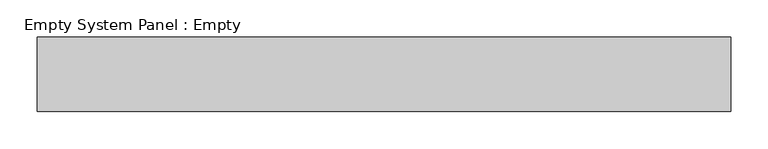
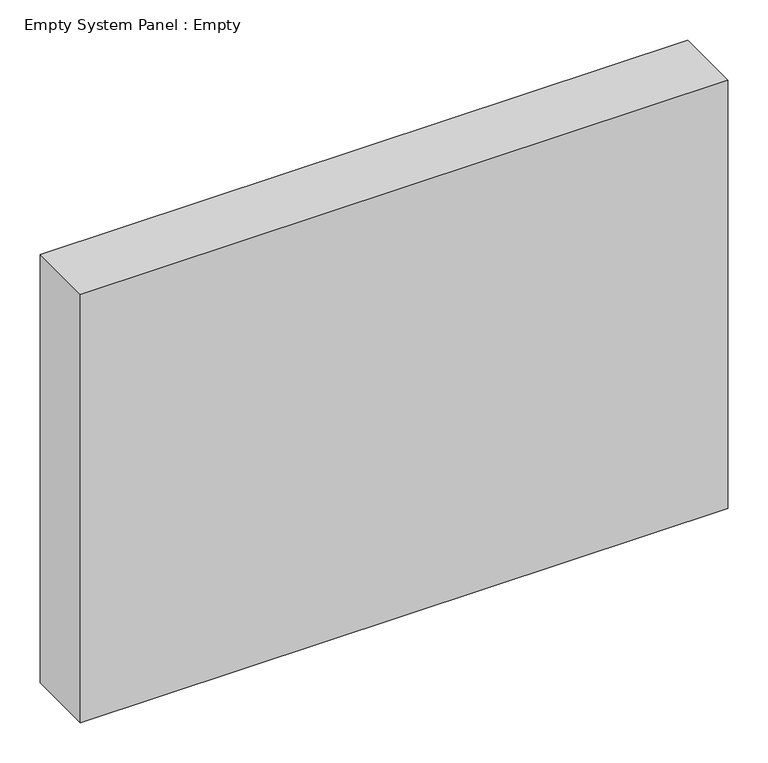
"""IFC4 building model written with IfcOpenShell, lengths in millimetres: plate geometry, Empty System Panel : Empty."""

import ifcopenshell
import ifcopenshell.guid

model = None  # the IFC model being written
_history = None  # IfcOwnerHistory: only IFC2X3 demands one
_inside = {}  # id of a spatial element -> (the spatial element, [elements in it])
_under = {}  # id of a project, library or spatial element -> (it, [spatial elements below it])
_declared = {}  # id of a project -> (the project, [libraries it declares])
_typed = {}  # id of a type object -> (the type object, [elements of that type])
_made_of = {}  # id of a material, layer set ... -> (it, [elements and type objects made of it])


def new_model(schema):
    """Start an empty IFC model of exactly this schema.

    Asked for "IFC4X3", IfcOpenShell would pick the latest addendum, in which some entities
    have other attributes; the version numbers below select the first issue.
    IFC2X3 requires an IfcOwnerHistory on every rooted entity: one is made here for all.
    """
    global model, _history
    if schema == "IFC4X3":
        model = ifcopenshell.file(schema_version=(4, 3, 0, 0))
    else:
        model = ifcopenshell.file(schema=schema)
    _inside.clear()
    _under.clear()
    _declared.clear()
    _typed.clear()
    _made_of.clear()
    _history = None
    if model.schema == "IFC2X3":
        org = make("IfcOrganization", Name="unknown")
        user = make(
            "IfcPersonAndOrganization",
            ThePerson=make("IfcPerson", FamilyName="unknown"),
            TheOrganization=org,
        )
        app = make(
            "IfcApplication",
            ApplicationDeveloper=org,
            Version="unknown",
            ApplicationFullName="unknown",
            ApplicationIdentifier="unknown",
        )
        _history = make(
            "IfcOwnerHistory",
            OwningUser=user,
            OwningApplication=app,
            ChangeAction="ADDED",
            CreationDate=0,
        )
    return model


def make(cls, **values):
    """One entity of the class cls with the attributes given. An attribute that is None is left unset."""
    return model.create_entity(
        cls, **{name: value for name, value in values.items() if value is not None}
    )


def rooted(cls, **values):
    """An entity with a GlobalId (a new one), such as an element, a storey or a relation."""
    return make(cls, GlobalId=ifcopenshell.guid.new(), OwnerHistory=_history, **values)


def si_unit(unit_type, name, prefix=None):
    """IfcSIUnit, for example si_unit("LENGTHUNIT", "METRE", prefix="MILLI")."""
    return make("IfcSIUnit", UnitType=unit_type, Prefix=prefix, Name=name)


def assignment(units):
    """IfcUnitAssignment: the units of a project."""
    return None if units is None else make("IfcUnitAssignment", Units=units)


def point(xyz):
    """IfcCartesianPoint."""
    return None if xyz is None else make("IfcCartesianPoint", Coordinates=xyz)


def direction(xyz):
    """IfcDirection."""
    return None if xyz is None else make("IfcDirection", DirectionRatios=xyz)


def frame(location, z_axis=None, x_axis=None):
    """IfcAxis2Placement3D, a coordinate frame: its origin and axes. An axis left out is left unset."""
    return make(
        "IfcAxis2Placement3D",
        Location=point(location),
        Axis=direction(z_axis),
        RefDirection=direction(x_axis),
    )


def origin():
    """The frame at (0, 0, 0) with its axes left unset."""
    return frame((0.0, 0.0, 0.0))


def origin_with_axes():
    """The frame at (0, 0, 0) with the z axis (0, 0, 1) and the x axis (1, 0, 0) written out."""
    return frame((0.0, 0.0, 0.0), z_axis=(0.0, 0.0, 1.0), x_axis=(1.0, 0.0, 0.0))


def place(relative_to, where):
    """IfcLocalPlacement: puts the frame where relative to a parent placement (None: the world)."""
    return make(
        "IfcLocalPlacement", PlacementRelTo=relative_to, RelativePlacement=where
    )


def context(
    kind, dimensions, precision=None, world=None, true_north=None, identifier=None
):
    """IfcGeometricRepresentationContext, for example the 3D "Model" context."""
    return make(
        "IfcGeometricRepresentationContext",
        ContextIdentifier=identifier,
        ContextType=kind,
        CoordinateSpaceDimension=dimensions,
        Precision=precision,
        WorldCoordinateSystem=world,
        TrueNorth=true_north,
    )


def project(units=None, contexts=None):
    """IfcProject with its units and contexts."""
    return rooted(
        "IfcProject",
        Name="project",
        RepresentationContexts=contexts,
        UnitsInContext=assignment(units),
    )


def spatial(cls, under=None, at=None, **own):
    """A site, building, storey or space (cls), placed at a placement, below another one or the project."""
    s = rooted(cls, ObjectPlacement=at, **own)
    if under is not None:
        _under.setdefault(under.id(), (under, []))[1].append(s)
    return s


def polyline(points):
    """IfcPolyline through the points."""
    return make("IfcPolyline", Points=[point(p) for p in points])


def outline(outer, holes=None, kind="AREA"):
    """IfcArbitraryClosedProfileDef: a profile drawn as a closed curve; with holes, ...WithVoids."""
    if holes is None:
        return make("IfcArbitraryClosedProfileDef", ProfileType=kind, OuterCurve=outer)
    return make(
        "IfcArbitraryProfileDefWithVoids",
        ProfileType=kind,
        OuterCurve=outer,
        InnerCurves=holes,
    )


def extrude(swept, where, along, depth):
    """IfcExtrudedAreaSolid: the profile swept, set in the frame where, extruded along a direction by depth."""
    return make(
        "IfcExtrudedAreaSolid",
        SweptArea=swept,
        Position=where,
        ExtrudedDirection=direction(along),
        Depth=depth,
    )


def shape(context_of_items, identifier, shape_type, items):
    """IfcShapeRepresentation: the items that make up one representation, for example the "Body"."""
    return make(
        "IfcShapeRepresentation",
        ContextOfItems=context_of_items,
        RepresentationIdentifier=identifier,
        RepresentationType=shape_type,
        Items=items,
    )


def source(mapping_origin, context_of_items, identifier, shape_type, items):
    """IfcRepresentationMap: a shape defined once, which mapped items show again and again."""
    return make(
        "IfcRepresentationMap",
        MappingOrigin=mapping_origin,
        MappedRepresentation=shape(context_of_items, identifier, shape_type, items),
    )


def transform(
    local_origin,
    x_axis=None,
    y_axis=None,
    z_axis=None,
    scale=None,
    scale2=None,
    scale3=None,
    uniform=True,
):
    """IfcCartesianTransformationOperator3D, or its non-uniform kind. x_axis, y_axis, z_axis: its Axis1, 2, 3."""
    if uniform:
        return make(
            "IfcCartesianTransformationOperator3D",
            Axis1=direction(x_axis),
            Axis2=direction(y_axis),
            LocalOrigin=point(local_origin),
            Scale=scale,
            Axis3=direction(z_axis),
        )
    return make(
        "IfcCartesianTransformationOperator3DnonUniform",
        Axis1=direction(x_axis),
        Axis2=direction(y_axis),
        LocalOrigin=point(local_origin),
        Scale=scale,
        Axis3=direction(z_axis),
        Scale2=scale2,
        Scale3=scale3,
    )


def mapped(mapping_source, mapping_target):
    """IfcMappedItem: shows the shape of a source again, moved by a transform."""
    return make(
        "IfcMappedItem", MappingSource=mapping_source, MappingTarget=mapping_target
    )


def made_of(thing, what):
    """Note that an element or type object is made of a material, layer set ...; save() writes the relation."""
    if what is not None:
        _made_of.setdefault(what.id(), (what, []))[1].append(thing)
    return thing


def element(
    cls,
    number,
    at=None,
    inside=None,
    cuts=None,
    type_object=None,
    material=None,
    context=None,
    identifier="Body",
    shape_type=None,
    held_by="IfcProductDefinitionShape",
    body=None,
    shapes=None,
    **own,
):
    """One element of the class cls, such as IfcWall. Its Tag is "e" and its number.

    at: its placement. inside: the storey or other place that contains it. cuts: it is an
    opening in that element (IfcRelVoidsElement). A single representation is given by context,
    identifier, shape_type and body (its items); several are given by shapes. held_by: the class
    of the entity that holds the representations. save() writes the other relations.
    """
    e = rooted(cls, Tag="e%d" % number, ObjectPlacement=at, **own)
    if body is not None:
        shapes = [shape(context, identifier, shape_type, body)]
    if shapes is not None:
        e.Representation = make(held_by, Representations=shapes)
    if inside is not None:
        _inside.setdefault(inside.id(), (inside, []))[1].append(e)
    if cuts is not None:
        rooted(
            "IfcRelVoidsElement", RelatingBuildingElement=cuts, RelatedOpeningElement=e
        )
    if type_object is not None:
        _typed.setdefault(type_object.id(), (type_object, []))[1].append(e)
    return made_of(e, material)


def aggregate(whole, parts):
    """IfcRelAggregates: a whole, such as a stair, and the parts it consists of."""
    return rooted("IfcRelAggregates", RelatingObject=whole, RelatedObjects=parts)


def save(model, path):
    """Write the relations noted so far, then the file.

    IfcRelAggregates (storeys below a building ...), IfcRelContainedInSpatialStructure (elements
    in a storey), IfcRelDefinesByType, IfcRelAssociatesMaterial and IfcRelDeclares: one each for
    every whole, place, type object, material and project.
    """
    for whole, parts in _under.values():
        aggregate(whole, parts)
    for where, things in _inside.values():
        rooted(
            "IfcRelContainedInSpatialStructure",
            RelatedElements=things,
            RelatingStructure=where,
        )
    for kind, things in _typed.values():
        rooted("IfcRelDefinesByType", RelatedObjects=things, RelatingType=kind)
    for what, things in _made_of.values():
        rooted("IfcRelAssociatesMaterial", RelatedObjects=things, RelatingMaterial=what)
    for by, libraries in _declared.values():
        rooted("IfcRelDeclares", RelatingContext=by, RelatedDefinitions=libraries)
    model.write(path)


def empty_system_panel_empty_349d8383(model_context):
    return source(origin(), model_context, "Body", "SweptSolid", [
        extrude(outline(polyline([(464.2950184, -50.0), (-464.2950184, -50.0), (-464.2950184, 50.0), (464.2950184, 50.0), (464.2950184, -50.0)])), origin_with_axes(), (0.0, 0.0, 1.0), 650.0),
    ])


if __name__ == "__main__":
    model = new_model("IFC4")
    model_context = context("Model", 3, world=origin())
    ifc_project = project(units=[si_unit("LENGTHUNIT", "METRE", prefix="MILLI")], contexts=[model_context])
    site = spatial("IfcSite", under=ifc_project)
    building = spatial("IfcBuilding", under=site)
    placement = place(None, origin())
    empty_system_panel_empty_shape = empty_system_panel_empty_349d8383(model_context)
    element("IfcPlate", 1, ObjectType="Empty System Panel : Empty", at=placement, inside=building, context=model_context, shape_type="MappedRepresentation", body=[
        mapped(empty_system_panel_empty_shape, transform((0.0, 0.0, 0.0), x_axis=(1.0, 0.0, 0.0), y_axis=(0.0, 1.0, 0.0), z_axis=(0.0, 0.0, 1.0))),
    ])
    save(model, "model.ifc")
